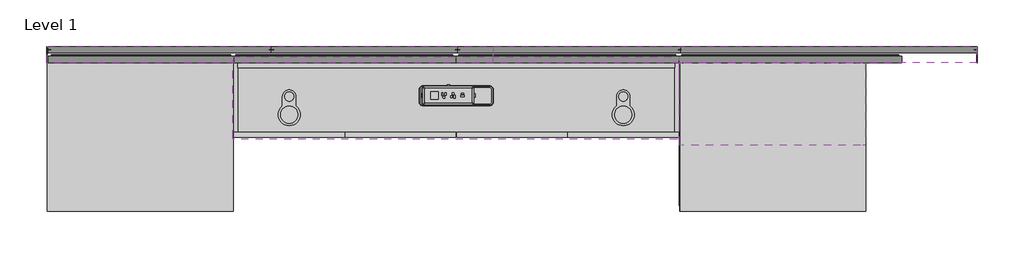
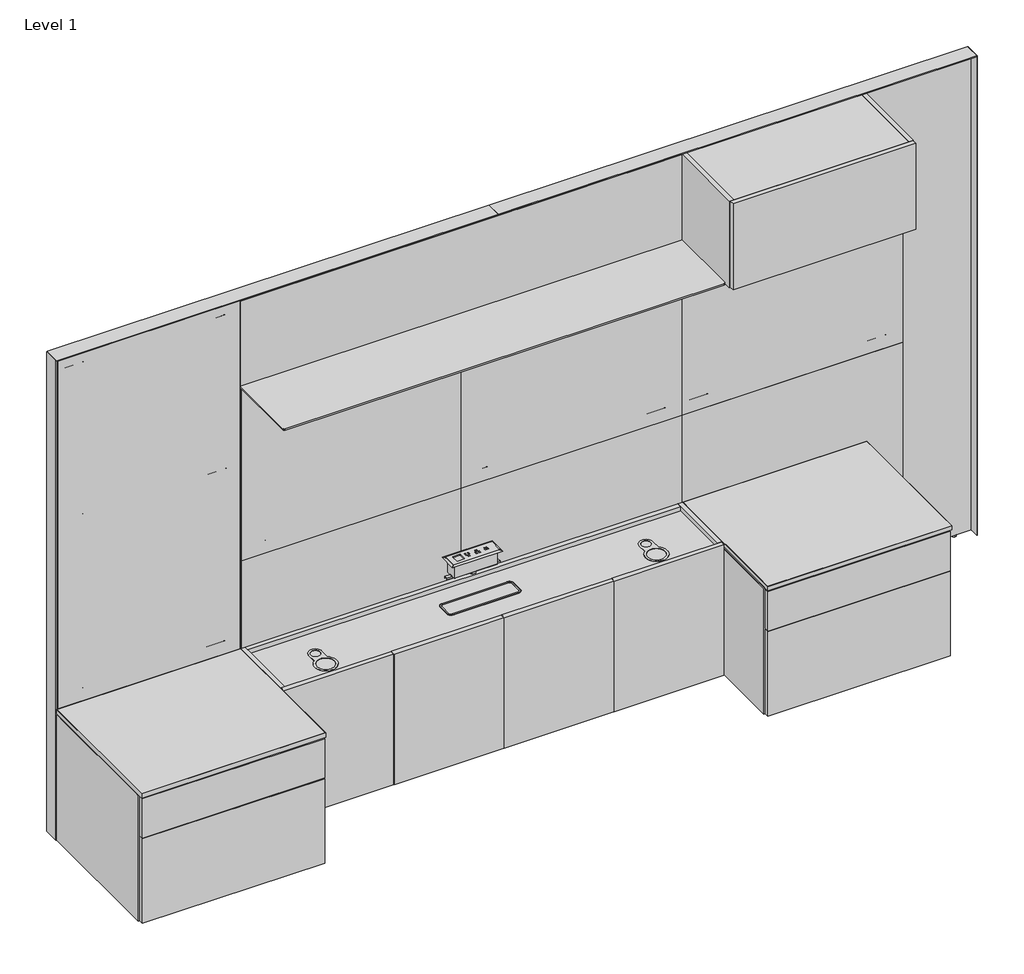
# One storey, incomplete: 23 furniture elements.
"""IFC4 building model written with IfcOpenShell, lengths in millimetres."""

from ifc_helpers import new_model, si_unit, origin, place, context, project, spatial, transform, mapped, element, save
from components import furniture_ab4901f7, furniture_62f48795, furniture_0a34b4cb, furniture_9a9e18b9, furniture_f40e33f1, furniture_53736ba7, furniture_8c12f292, furniture_5de3e53a, furniture_3015be08, furniture_bf2d382f, furniture_4e9a04d4, furniture_6f389571, furniture_017632f4, in_surface_33791ff7

model = new_model("IFC4")

# Units and contexts
model_context = context("Model", 3, world=origin())
ifc_project = project(units=[si_unit("LENGTHUNIT", "METRE", prefix="MILLI")], contexts=[model_context])

# Site, building, storey
site = spatial("IfcSite", under=ifc_project)
building = spatial("IfcBuilding", under=site)
storey = spatial("IfcBuildingStorey", under=building, Name="Level 1", Elevation=0.0)

# Furniture
placement = place(None, origin())
furniture_shape = furniture_ab4901f7(model_context)
element("IfcFurniture", 1, ObjectType="Geiger_GeigerOneCasegoods_WallFrameStandardApplication : 30Wx1Dx82.5H", at=placement, inside=storey, context=model_context, shape_type="MappedRepresentation", body=[
    mapped(furniture_shape, transform((953.870063, 4624.4661345, 0.0), x_axis=(1.0, 0.0, 0.0), y_axis=(0.0, 1.0, 0.0), z_axis=(0.0, 0.0, 1.0))),
])
furniture_2_shape = furniture_62f48795(model_context)
element("IfcFurniture", 2, ObjectType="Geiger_GeigerOneCasegoods_WallFrameStandardApplication : 36Wx1Dx82.5H", at=placement, inside=storey, context=model_context, shape_type="MappedRepresentation", body=[
    mapped(furniture_2_shape, transform((39.470063, 4624.4661345, 0.0), x_axis=(1.0, 0.0, 0.0), y_axis=(0.0, 1.0, 0.0), z_axis=(0.0, 0.0, 1.0))),
])
element("IfcFurniture", 3, ObjectType="Geiger_GeigerOneCasegoods_WallFrameStandardApplication : 36Wx1Dx82.5H", at=placement, inside=storey, context=model_context, shape_type="MappedRepresentation", body=[
    mapped(furniture_2_shape, transform((1715.870063, 4624.4661345, 0.0), x_axis=(1.0, 0.0, 0.0), y_axis=(0.0, 1.0, 0.0), z_axis=(0.0, 0.0, 1.0))),
])
furniture_3_shape = furniture_0a34b4cb(model_context)
element("IfcFurniture", 4, ObjectType="Geiger_GeigerOneCasegoods_WallFrameStandardApplication : 48Wx1Dx82.5H", at=placement, inside=storey, context=model_context, shape_type="MappedRepresentation", body=[
    mapped(furniture_3_shape, transform((2625.8210942, 4624.4661345, 0.0), x_axis=(1.0, 0.0, 0.0), y_axis=(0.0, 1.0, 0.0), z_axis=(0.0, 0.0, 1.0))),
])
furniture_4_shape = furniture_9a9e18b9(model_context)
element("IfcFurniture", 5, ObjectType="Geiger_GeigerOneCasegoods_WallEndTrim : SingleSided 2.625Wx 0.125Dx 82.625H", at=placement, inside=storey, context=model_context, shape_type="MappedRepresentation", body=[
    mapped(furniture_4_shape, transform((31.8460942, 4591.4661345, 12.7), x_axis=(1.0, 0.0, 0.0), y_axis=(0.0, 1.0, 0.0), z_axis=(0.0, 0.0, 1.0))),
])
element("IfcFurniture", 6, ObjectType="Geiger_GeigerOneCasegoods_WallEndTrim : SingleSided 2.625Wx 0.125Dx 82.625H", at=placement, inside=storey, context=model_context, shape_type="MappedRepresentation", body=[
    mapped(furniture_4_shape, transform((3845.0210942, 4591.4661345, 12.7), x_axis=(1.0, 0.0, 0.0), y_axis=(0.0, 1.0, 0.0), z_axis=(0.0, 0.0, 1.0))),
])
furniture_5_shape = furniture_f40e33f1(model_context)
element("IfcFurniture", 7, ObjectType="Geiger_GeigerOneCasegoods_WallTopTrimSingleSidedWall : 72Wx2.625Dx0.125H", at=placement, inside=storey, context=model_context, shape_type="MappedRepresentation", body=[
    mapped(furniture_5_shape, transform((35.0210942, 4591.4661345, 2108.708), x_axis=(1.0, 0.0, 0.0), y_axis=(0.0, 1.0, 0.0), z_axis=(0.0, 0.0, 1.0))),
])
furniture_6_shape = furniture_53736ba7(model_context)
element("IfcFurniture", 8, ObjectType="Geiger_GeigerOneCasegoods_WallTopTrimSingleSidedWall : 78Wx2.625Dx0.125H", at=placement, inside=storey, context=model_context, shape_type="MappedRepresentation", body=[
    mapped(furniture_6_shape, transform((1863.8210942, 4591.4661345, 2108.708), x_axis=(1.0, 0.0, 0.0), y_axis=(0.0, 1.0, 0.0), z_axis=(0.0, 0.0, 1.0))),
])
furniture_7_shape = furniture_8c12f292(model_context)
element("IfcFurniture", 9, ObjectType="Geiger_GeigerOneCasegoods_OverheadStorageMetalShelf : TFL Back 72Wx 13.5Dx 14.875H", at=placement, inside=storey, context=model_context, shape_type="MappedRepresentation", body=[
    mapped(furniture_7_shape, transform((794.4810942, 4582.4261345, 1728.724), x_axis=(1.0, 0.0, 0.0), y_axis=(0.0, 1.0, 0.0), z_axis=(0.0, 0.0, 1.0))),
])
furniture_8_shape = furniture_5de3e53a(model_context)
element("IfcFurniture", 10, ObjectType="Geiger_GeigerOneCasegoods_WallTileAcceptsTileAboveFabric : Fabric 36Wx 1.25Dx 30H", at=placement, inside=storey, context=model_context, shape_type="MappedRepresentation", body=[
    mapped(furniture_8_shape, transform((795.120063, 4590.5294345, 205.3797742), x_axis=(1.0, 0.0, 0.0), y_axis=(0.0, 1.0, 0.0), z_axis=(0.0, 0.0, 1.0))),
])
element("IfcFurniture", 11, ObjectType="Geiger_GeigerOneCasegoods_WallTileAcceptsTileAboveFabric : Fabric 36Wx 1.25Dx 30H", at=placement, inside=storey, context=model_context, shape_type="MappedRepresentation", body=[
    mapped(furniture_8_shape, transform((1709.520063, 4590.5294345, 205.3797742), x_axis=(1.0, 0.0, 0.0), y_axis=(0.0, 1.0, 0.0), z_axis=(0.0, 0.0, 1.0))),
])
element("IfcFurniture", 12, ObjectType="Geiger_GeigerOneCasegoods_WallTileAcceptsTileAboveFabric : Fabric 36Wx 1.25Dx 30H", at=placement, inside=storey, context=model_context, shape_type="MappedRepresentation", body=[
    mapped(furniture_8_shape, transform((2623.920063, 4590.5294345, 205.3797742), x_axis=(1.0, 0.0, 0.0), y_axis=(0.0, 1.0, 0.0), z_axis=(0.0, 0.0, 1.0))),
])
element("IfcFurniture", 13, ObjectType="Geiger_GeigerOneCasegoods_WallTileAcceptsTileAboveFabric : Fabric 36Wx 1.25Dx 30H", at=placement, inside=storey, context=model_context, shape_type="MappedRepresentation", body=[
    mapped(furniture_8_shape, transform((795.120063, 4590.5294345, 966.3797742), x_axis=(1.0, 0.0, 0.0), y_axis=(0.0, 1.0, 0.0), z_axis=(0.0, 0.0, 1.0))),
])
element("IfcFurniture", 14, ObjectType="Geiger_GeigerOneCasegoods_WallTileAcceptsTileAboveFabric : Fabric 36Wx 1.25Dx 30H", at=placement, inside=storey, context=model_context, shape_type="MappedRepresentation", body=[
    mapped(furniture_8_shape, transform((1709.520063, 4590.5294345, 966.3797742), x_axis=(1.0, 0.0, 0.0), y_axis=(0.0, 1.0, 0.0), z_axis=(0.0, 0.0, 1.0))),
])
element("IfcFurniture", 15, ObjectType="Geiger_GeigerOneCasegoods_WallTileAcceptsTileAboveFabric : Fabric 36Wx 1.25Dx 30H", at=placement, inside=storey, context=model_context, shape_type="MappedRepresentation", body=[
    mapped(furniture_8_shape, transform((2623.920063, 4590.5294345, 966.3797742), x_axis=(1.0, 0.0, 0.0), y_axis=(0.0, 1.0, 0.0), z_axis=(0.0, 0.0, 1.0))),
])
furniture_9_shape = furniture_3015be08(model_context)
element("IfcFurniture", 16, ObjectType="Geiger_GeigerOneCasegoods_LowStorage1Box1File : Vertical Veneer 30Wx24Dx21.75H", at=placement, inside=storey, context=model_context, shape_type="MappedRepresentation", body=[
    mapped(furniture_9_shape, transform((2625.8210942, 4558.9661345, 0.0), x_axis=(1.0, 0.0, 0.0), y_axis=(0.0, 1.0, 0.0), z_axis=(0.0, 0.0, 1.0))),
])
element("IfcFurniture", 17, ObjectType="Geiger_GeigerOneCasegoods_LowStorage1Box1File : Vertical Veneer 30Wx24Dx21.75H", at=placement, inside=storey, context=model_context, shape_type="MappedRepresentation", body=[
    mapped(furniture_9_shape, transform((35.0210942, 4558.9661345, 0.0), x_axis=(1.0, 0.0, 0.0), y_axis=(0.0, 1.0, 0.0), z_axis=(0.0, 0.0, 1.0))),
])
furniture_10_shape = furniture_bf2d382f(model_context)
element("IfcFurniture", 18, ObjectType="Geiger_GeigerOneCasegoods_CredenzaTopLowHeightPlainVeneer : Veneer 30Wx 24Dx 0.75H", at=placement, inside=storey, context=model_context, shape_type="MappedRepresentation", body=[
    mapped(furniture_10_shape, transform((35.0210942, 4558.2661345, 565.404), x_axis=(1.0, 0.0, 0.0), y_axis=(0.0, 1.0, 0.0), z_axis=(0.0, 0.0, 1.0))),
])
element("IfcFurniture", 19, ObjectType="Geiger_GeigerOneCasegoods_CredenzaTopLowHeightPlainVeneer : Veneer 30Wx 24Dx 0.75H", at=placement, inside=storey, context=model_context, shape_type="MappedRepresentation", body=[
    mapped(furniture_10_shape, transform((2628.3210942, 4558.2661345, 565.404), x_axis=(1.0, 0.0, 0.0), y_axis=(0.0, 1.0, 0.0), z_axis=(0.0, 0.0, 1.0))),
])
furniture_11_shape = furniture_4e9a04d4(model_context)
element("IfcFurniture", 20, ObjectType="Geiger_GeigerOneCasegoods_UtilityCabinetForUseWithCredenzaDeskAccepts2Legs : Vertical Veneer 72Wx 12Dx 22.5H", at=placement, inside=storey, context=model_context, shape_type="MappedRepresentation", body=[
    mapped(furniture_11_shape, transform((797.0210942, 4558.4661345, 0.0), x_axis=(1.0, 0.0, 0.0), y_axis=(0.0, 1.0, 0.0), z_axis=(0.0, 0.0, 1.0))),
])
furniture_12_shape = furniture_6f389571(model_context)
element("IfcFurniture", 21, ObjectType="Geiger_GeigerOneCasegoods_WallTileTopTileorWallMounted : Vertical Veneer 30Wx 1.25Dx 60H", at=placement, inside=storey, context=model_context, shape_type="MappedRepresentation", body=[
    mapped(furniture_12_shape, transform((39.470063, 4584.1286345, 585.1906), x_axis=(1.0, 0.0, 0.0), y_axis=(0.0, 1.0, 0.0), z_axis=(0.0, 0.0, 1.0))),
])
furniture_13_shape = furniture_017632f4(model_context)
element("IfcFurniture", 22, ObjectType="Geiger_GeigerOneCasegoods_OverheadStorageFlipUPDoor : Vertical Veneer 30Wx14.125Dx14.875H", at=placement, inside=storey, context=model_context, shape_type="MappedRepresentation", body=[
    mapped(furniture_13_shape, transform((2625.8210942, 4558.7740598, 1728.724), x_axis=(1.0, 0.0, 0.0), y_axis=(0.0, 1.0, 0.0), z_axis=(0.0, 0.0, 1.0))),
])
in_surface_shape = in_surface_33791ff7(model_context)
element("IfcFurniture", 23, ObjectType="Geiger_GeigerOneCasegoods_PowerComponent2PowerOutlets1USBA1USBC : In Surface", at=placement, inside=storey, context=model_context, shape_type="MappedRepresentation", body=[
    mapped(in_surface_shape, transform((1679.3947875, 4424.1975152, 769.5946), x_axis=(1.0, 0.0, 0.0), y_axis=(0.0, 1.0, 0.0), z_axis=(0.0, 0.0, 1.0))),
])

save(model, "model.ifc")
